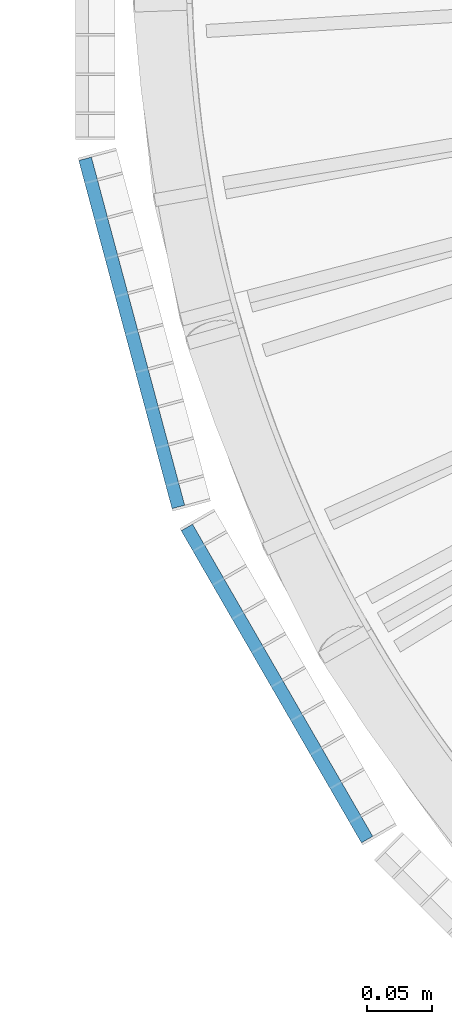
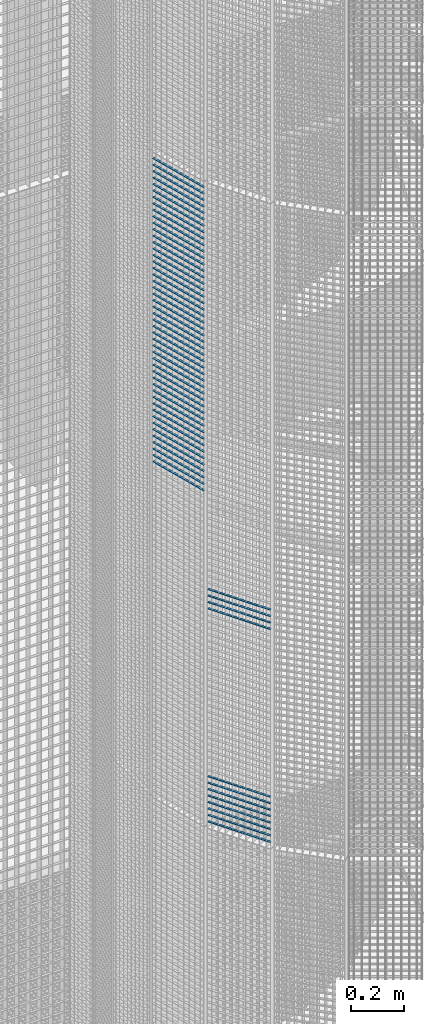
# One storey, part 116 of 1148: 60 beams, 2 elements without a shape of their own.
"""IFC2X3 building model written with IfcOpenShell, lengths in millimetres."""

from ifc_helpers import new_model, si_unit, frame, origin_with_axes, origin_2d_with_axis, place, context, subcontext, project, spatial, rectangle, extrude, material, type_object, element, aggregate, save


model = new_model("IFC2X3")

# Units and contexts
model_context = context("Model", 3, precision=1e-05, world=origin_with_axes())
body_context = subcontext(model_context, "Body", "Model", "MODEL_VIEW")
ifc_project = project(units=[si_unit("LENGTHUNIT", "METRE", prefix="MILLI"), si_unit("AREAUNIT", "SQUARE_METRE"), si_unit("VOLUMEUNIT", "CUBIC_METRE"), si_unit("MASSUNIT", "GRAM", prefix="KILO"), si_unit("TIMEUNIT", "SECOND"), si_unit("PLANEANGLEUNIT", "RADIAN"), si_unit("SOLIDANGLEUNIT", "STERADIAN"), si_unit("THERMODYNAMICTEMPERATUREUNIT", "DEGREE_CELSIUS"), si_unit("LUMINOUSINTENSITYUNIT", "LUMEN")], contexts=[model_context])

# Site, building, storey
site_placement = place(None, origin_with_axes())
site = spatial("IfcSite", under=ifc_project, at=site_placement, Name="Undefined", CompositionType="ELEMENT")
building_placement = place(site_placement, origin_with_axes())
building = spatial("IfcBuilding", under=site, at=building_placement, Name="Undefined", CompositionType="ELEMENT")
storey_placement = place(building_placement, origin_with_axes())
storey = spatial("IfcBuildingStorey", under=building, at=storey_placement, Name="Undefined", CompositionType="ELEMENT", Elevation=0.0)

# Assembly, beams
assembly_1_placement = place(storey_placement, origin_with_axes())
assembly_1 = element("IfcElementAssembly", 1, at=assembly_1_placement, inside=storey, Name="BORDURE", AssemblyPlace="NOTDEFINED", PredefinedType="NOTDEFINED")
ifc_material = material(Name="STEEL/S235JR")
beam_type = type_object("IfcBeamType", Name="PL2*10", PredefinedType="NOTDEFINED")
beam_1_placement = place(assembly_1_placement, frame((-1033.29996828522, -437.231955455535, 9240.0), z_axis=(-0.866025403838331, -0.499999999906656, 0.0), x_axis=(0.499999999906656, -0.866025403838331, 0.0)))
beam_1 = element("IfcBeam", 2, at=beam_1_placement, type_object=beam_type, material=ifc_material, Name="ENTRETOISE", context=body_context, shape_type="SweptSolid", body=[
    extrude(rectangle(XDim=2.0, YDim=10.0, at=origin_2d_with_axis()), frame((275.999999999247, 9.09494701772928e-13, 1.53210777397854e-14), z_axis=(-1.0, 0.0, 0.0), x_axis=(0.0, -1.0, 0.0)), (0.0, 0.0, 1.0), 276.0),
])
beam_2_placement = place(assembly_1_placement, frame((-1033.29996828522, -437.231955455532, 10020.0), z_axis=(-0.866025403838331, -0.499999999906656, 0.0), x_axis=(0.499999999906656, -0.866025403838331, 0.0)))
beam_2 = element("IfcBeam", 3, at=beam_2_placement, type_object=beam_type, material=ifc_material, Name="ENTRETOISE", context=body_context, shape_type="SweptSolid", body=[
    extrude(rectangle(XDim=2.0, YDim=10.0, at=origin_2d_with_axis()), frame((275.999999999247, 9.09494701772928e-13, 1.53210777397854e-14), z_axis=(-1.0, 0.0, 0.0), x_axis=(0.0, -1.0, 0.0)), (0.0, 0.0, 1.0), 276.0),
])
beam_3_placement = place(assembly_1_placement, frame((-1033.29996828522, -437.231955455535, 9210.0), z_axis=(-0.866025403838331, -0.499999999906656, 0.0), x_axis=(0.499999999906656, -0.866025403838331, 0.0)))
beam_3 = element("IfcBeam", 4, at=beam_3_placement, type_object=beam_type, material=ifc_material, Name="ENTRETOISE", context=body_context, shape_type="SweptSolid", body=[
    extrude(rectangle(XDim=2.0, YDim=10.0, at=origin_2d_with_axis()), frame((275.999999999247, 9.09494701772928e-13, 1.53210777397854e-14), z_axis=(-1.0, 0.0, 0.0), x_axis=(0.0, -1.0, 0.0)), (0.0, 0.0, 1.0), 276.0),
])
beam_4_placement = place(assembly_1_placement, frame((-1033.29996828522, -437.231955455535, 9180.0), z_axis=(-0.866025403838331, -0.499999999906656, 0.0), x_axis=(0.499999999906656, -0.866025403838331, 0.0)))
beam_4 = element("IfcBeam", 5, at=beam_4_placement, type_object=beam_type, material=ifc_material, Name="ENTRETOISE", context=body_context, shape_type="SweptSolid", body=[
    extrude(rectangle(XDim=2.0, YDim=10.0, at=origin_2d_with_axis()), frame((275.999999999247, 9.09494701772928e-13, 1.53210777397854e-14), z_axis=(-1.0, 0.0, 0.0), x_axis=(0.0, -1.0, 0.0)), (0.0, 0.0, 1.0), 276.0),
])
beam_5_placement = place(assembly_1_placement, frame((-1033.29996828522, -437.231955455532, 10050.0), z_axis=(-0.866025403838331, -0.499999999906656, 0.0), x_axis=(0.499999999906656, -0.866025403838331, 0.0)))
beam_5 = element("IfcBeam", 6, at=beam_5_placement, type_object=beam_type, material=ifc_material, Name="ENTRETOISE", context=body_context, shape_type="SweptSolid", body=[
    extrude(rectangle(XDim=2.0, YDim=10.0, at=origin_2d_with_axis()), frame((275.999999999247, 9.09494701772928e-13, 1.53210777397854e-14), z_axis=(-1.0, 0.0, 0.0), x_axis=(0.0, -1.0, 0.0)), (0.0, 0.0, 1.0), 276.0),
])
beam_6_placement = place(assembly_1_placement, frame((-1033.29996828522, -437.231955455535, 9150.0), z_axis=(-0.866025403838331, -0.499999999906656, 0.0), x_axis=(0.499999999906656, -0.866025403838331, 0.0)))
beam_6 = element("IfcBeam", 7, at=beam_6_placement, type_object=beam_type, material=ifc_material, Name="ENTRETOISE", context=body_context, shape_type="SweptSolid", body=[
    extrude(rectangle(XDim=2.0, YDim=10.0, at=origin_2d_with_axis()), frame((275.999999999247, 9.09494701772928e-13, 1.53210777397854e-14), z_axis=(-1.0, 0.0, 0.0), x_axis=(0.0, -1.0, 0.0)), (0.0, 0.0, 1.0), 276.0),
])
beam_7_placement = place(assembly_1_placement, frame((-1033.29996828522, -437.231955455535, 9120.0), z_axis=(-0.866025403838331, -0.499999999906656, 0.0), x_axis=(0.499999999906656, -0.866025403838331, 0.0)))
beam_7 = element("IfcBeam", 8, at=beam_7_placement, type_object=beam_type, material=ifc_material, Name="ENTRETOISE", context=body_context, shape_type="SweptSolid", body=[
    extrude(rectangle(XDim=2.0, YDim=10.0, at=origin_2d_with_axis()), frame((275.999999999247, 9.09494701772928e-13, 1.53210777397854e-14), z_axis=(-1.0, 0.0, 0.0), x_axis=(0.0, -1.0, 0.0)), (0.0, 0.0, 1.0), 276.0),
])
beam_8_placement = place(assembly_1_placement, frame((-1033.29996828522, -437.231955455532, 10080.0), z_axis=(-0.866025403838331, -0.499999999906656, 0.0), x_axis=(0.499999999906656, -0.866025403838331, 0.0)))
beam_8 = element("IfcBeam", 9, at=beam_8_placement, type_object=beam_type, material=ifc_material, Name="ENTRETOISE", context=body_context, shape_type="SweptSolid", body=[
    extrude(rectangle(XDim=2.0, YDim=10.0, at=origin_2d_with_axis()), frame((275.999999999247, 9.09494701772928e-13, 1.53210777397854e-14), z_axis=(-1.0, 0.0, 0.0), x_axis=(0.0, -1.0, 0.0)), (0.0, 0.0, 1.0), 276.0),
])
beam_9_placement = place(assembly_1_placement, frame((-1033.29996828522, -437.231955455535, 9090.0), z_axis=(-0.866025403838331, -0.499999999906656, 0.0), x_axis=(0.499999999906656, -0.866025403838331, 0.0)))
beam_9 = element("IfcBeam", 10, at=beam_9_placement, type_object=beam_type, material=ifc_material, Name="ENTRETOISE", context=body_context, shape_type="SweptSolid", body=[
    extrude(rectangle(XDim=2.0, YDim=10.0, at=origin_2d_with_axis()), frame((275.999999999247, 9.09494701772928e-13, 1.53210777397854e-14), z_axis=(-1.0, 0.0, 0.0), x_axis=(0.0, -1.0, 0.0)), (0.0, 0.0, 1.0), 276.0),
])
beam_10_placement = place(assembly_1_placement, frame((-1033.29996828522, -437.231955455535, 9060.0), z_axis=(-0.866025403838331, -0.499999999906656, 0.0), x_axis=(0.499999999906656, -0.866025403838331, 0.0)))
beam_10 = element("IfcBeam", 11, at=beam_10_placement, type_object=beam_type, material=ifc_material, Name="ENTRETOISE", context=body_context, shape_type="SweptSolid", body=[
    extrude(rectangle(XDim=2.0, YDim=10.0, at=origin_2d_with_axis()), frame((275.999999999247, 9.09494701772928e-13, 1.53210777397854e-14), z_axis=(-1.0, 0.0, 0.0), x_axis=(0.0, -1.0, 0.0)), (0.0, 0.0, 1.0), 276.0),
])
beam_11_placement = place(assembly_1_placement, frame((-1033.29996828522, -437.231955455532, 10110.0), z_axis=(-0.866025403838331, -0.499999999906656, 0.0), x_axis=(0.499999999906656, -0.866025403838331, 0.0)))
beam_11 = element("IfcBeam", 12, at=beam_11_placement, type_object=beam_type, material=ifc_material, Name="ENTRETOISE", context=body_context, shape_type="SweptSolid", body=[
    extrude(rectangle(XDim=2.0, YDim=10.0, at=origin_2d_with_axis()), frame((275.999999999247, 9.09494701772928e-13, 1.53210777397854e-14), z_axis=(-1.0, 0.0, 0.0), x_axis=(0.0, -1.0, 0.0)), (0.0, 0.0, 1.0), 276.0),
])
beam_12_placement = place(assembly_1_placement, frame((-1033.29996828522, -437.231955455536, 9030.0), z_axis=(-0.866025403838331, -0.499999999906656, 0.0), x_axis=(0.499999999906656, -0.866025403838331, 0.0)))
beam_12 = element("IfcBeam", 13, at=beam_12_placement, type_object=beam_type, material=ifc_material, Name="ENTRETOISE", context=body_context, shape_type="SweptSolid", body=[
    extrude(rectangle(XDim=2.0, YDim=10.0, at=origin_2d_with_axis()), frame((275.999999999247, 9.09494701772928e-13, 1.53210777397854e-14), z_axis=(-1.0, 0.0, 0.0), x_axis=(0.0, -1.0, 0.0)), (0.0, 0.0, 1.0), 276.0),
])
aggregate(assembly_1, [beam_1, beam_2, beam_3, beam_4, beam_5, beam_6, beam_7, beam_8, beam_9, beam_10, beam_11, beam_12])

assembly_2_placement = place(storey_placement, origin_with_axes())
assembly_2 = element("IfcElementAssembly", 14, at=assembly_2_placement, inside=storey, Name="BORDURE", AssemblyPlace="NOTDEFINED", PredefinedType="NOTDEFINED")
beam_13_placement = place(assembly_2_placement, frame((-1111.25508286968, -154.895926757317, 11970.0), z_axis=(-0.965925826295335, -0.258819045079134, 0.0), x_axis=(0.258819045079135, -0.965925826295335, 0.0)))
beam_13 = element("IfcBeam", 15, at=beam_13_placement, type_object=beam_type, material=ifc_material, Name="ENTRETOISE", context=body_context, shape_type="SweptSolid", body=[
    extrude(rectangle(XDim=2.0, YDim=10.0, at=origin_2d_with_axis()), frame((275.999999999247, 9.09494701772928e-13, 1.53210777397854e-14), z_axis=(-1.0, 0.0, 0.0), x_axis=(0.0, -1.0, 0.0)), (0.0, 0.0, 1.0), 276.0),
])
beam_14_placement = place(assembly_2_placement, frame((-1111.25508286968, -154.895926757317, 11940.0), z_axis=(-0.965925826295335, -0.258819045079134, 0.0), x_axis=(0.258819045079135, -0.965925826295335, 0.0)))
beam_14 = element("IfcBeam", 16, at=beam_14_placement, type_object=beam_type, material=ifc_material, Name="ENTRETOISE", context=body_context, shape_type="SweptSolid", body=[
    extrude(rectangle(XDim=2.0, YDim=10.0, at=origin_2d_with_axis()), frame((275.999999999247, 9.09494701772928e-13, 1.53210777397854e-14), z_axis=(-1.0, 0.0, 0.0), x_axis=(0.0, -1.0, 0.0)), (0.0, 0.0, 1.0), 276.0),
])
beam_15_placement = place(assembly_2_placement, frame((-1111.25508286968, -154.895926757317, 11910.0), z_axis=(-0.965925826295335, -0.258819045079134, 0.0), x_axis=(0.258819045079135, -0.965925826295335, 0.0)))
beam_15 = element("IfcBeam", 17, at=beam_15_placement, type_object=beam_type, material=ifc_material, Name="ENTRETOISE", context=body_context, shape_type="SweptSolid", body=[
    extrude(rectangle(XDim=2.0, YDim=10.0, at=origin_2d_with_axis()), frame((275.999999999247, 9.09494701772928e-13, 1.53210777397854e-14), z_axis=(-1.0, 0.0, 0.0), x_axis=(0.0, -1.0, 0.0)), (0.0, 0.0, 1.0), 276.0),
])
beam_16_placement = place(assembly_2_placement, frame((-1111.25508286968, -154.895926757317, 11880.0), z_axis=(-0.965925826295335, -0.258819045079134, 0.0), x_axis=(0.258819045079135, -0.965925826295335, 0.0)))
beam_16 = element("IfcBeam", 18, at=beam_16_placement, type_object=beam_type, material=ifc_material, Name="ENTRETOISE", context=body_context, shape_type="SweptSolid", body=[
    extrude(rectangle(XDim=2.0, YDim=10.0, at=origin_2d_with_axis()), frame((275.999999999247, 9.09494701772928e-13, 1.53210777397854e-14), z_axis=(-1.0, 0.0, 0.0), x_axis=(0.0, -1.0, 0.0)), (0.0, 0.0, 1.0), 276.0),
])
beam_17_placement = place(assembly_2_placement, frame((-1111.25508286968, -154.895926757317, 11850.0), z_axis=(-0.965925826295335, -0.258819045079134, 0.0), x_axis=(0.258819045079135, -0.965925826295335, 0.0)))
beam_17 = element("IfcBeam", 19, at=beam_17_placement, type_object=beam_type, material=ifc_material, Name="ENTRETOISE", context=body_context, shape_type="SweptSolid", body=[
    extrude(rectangle(XDim=2.0, YDim=10.0, at=origin_2d_with_axis()), frame((275.999999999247, 9.09494701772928e-13, 1.53210777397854e-14), z_axis=(-1.0, 0.0, 0.0), x_axis=(0.0, -1.0, 0.0)), (0.0, 0.0, 1.0), 276.0),
])
beam_18_placement = place(assembly_2_placement, frame((-1111.25508286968, -154.895926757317, 11820.0), z_axis=(-0.965925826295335, -0.258819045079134, 0.0), x_axis=(0.258819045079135, -0.965925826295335, 0.0)))
beam_18 = element("IfcBeam", 20, at=beam_18_placement, type_object=beam_type, material=ifc_material, Name="ENTRETOISE", context=body_context, shape_type="SweptSolid", body=[
    extrude(rectangle(XDim=2.0, YDim=10.0, at=origin_2d_with_axis()), frame((275.999999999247, 9.09494701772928e-13, 1.53210777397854e-14), z_axis=(-1.0, 0.0, 0.0), x_axis=(0.0, -1.0, 0.0)), (0.0, 0.0, 1.0), 276.0),
])
beam_19_placement = place(assembly_2_placement, frame((-1111.25508286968, -154.895926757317, 11790.0), z_axis=(-0.965925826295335, -0.258819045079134, 0.0), x_axis=(0.258819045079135, -0.965925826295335, 0.0)))
beam_19 = element("IfcBeam", 21, at=beam_19_placement, type_object=beam_type, material=ifc_material, Name="ENTRETOISE", context=body_context, shape_type="SweptSolid", body=[
    extrude(rectangle(XDim=2.0, YDim=10.0, at=origin_2d_with_axis()), frame((275.999999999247, 9.09494701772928e-13, 1.53210777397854e-14), z_axis=(-1.0, 0.0, 0.0), x_axis=(0.0, -1.0, 0.0)), (0.0, 0.0, 1.0), 276.0),
])
beam_20_placement = place(assembly_2_placement, frame((-1111.25508286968, -154.895926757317, 11760.0), z_axis=(-0.965925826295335, -0.258819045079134, 0.0), x_axis=(0.258819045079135, -0.965925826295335, 0.0)))
beam_20 = element("IfcBeam", 22, at=beam_20_placement, type_object=beam_type, material=ifc_material, Name="ENTRETOISE", context=body_context, shape_type="SweptSolid", body=[
    extrude(rectangle(XDim=2.0, YDim=10.0, at=origin_2d_with_axis()), frame((275.999999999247, 9.09494701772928e-13, 1.53210777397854e-14), z_axis=(-1.0, 0.0, 0.0), x_axis=(0.0, -1.0, 0.0)), (0.0, 0.0, 1.0), 276.0),
])
beam_21_placement = place(assembly_2_placement, frame((-1111.25508286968, -154.895926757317, 11730.0), z_axis=(-0.965925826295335, -0.258819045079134, 0.0), x_axis=(0.258819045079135, -0.965925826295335, 0.0)))
beam_21 = element("IfcBeam", 23, at=beam_21_placement, type_object=beam_type, material=ifc_material, Name="ENTRETOISE", context=body_context, shape_type="SweptSolid", body=[
    extrude(rectangle(XDim=2.0, YDim=10.0, at=origin_2d_with_axis()), frame((275.999999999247, 9.09494701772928e-13, 1.53210777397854e-14), z_axis=(-1.0, 0.0, 0.0), x_axis=(0.0, -1.0, 0.0)), (0.0, 0.0, 1.0), 276.0),
])
beam_22_placement = place(assembly_2_placement, frame((-1111.25508286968, -154.895926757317, 11700.0), z_axis=(-0.965925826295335, -0.258819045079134, 0.0), x_axis=(0.258819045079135, -0.965925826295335, 0.0)))
beam_22 = element("IfcBeam", 24, at=beam_22_placement, type_object=beam_type, material=ifc_material, Name="ENTRETOISE", context=body_context, shape_type="SweptSolid", body=[
    extrude(rectangle(XDim=2.0, YDim=10.0, at=origin_2d_with_axis()), frame((275.999999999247, 9.09494701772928e-13, 1.53210777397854e-14), z_axis=(-1.0, 0.0, 0.0), x_axis=(0.0, -1.0, 0.0)), (0.0, 0.0, 1.0), 276.0),
])
beam_23_placement = place(assembly_2_placement, frame((-1111.25508286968, -154.895926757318, 11670.0), z_axis=(-0.965925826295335, -0.258819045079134, 0.0), x_axis=(0.258819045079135, -0.965925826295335, 0.0)))
beam_23 = element("IfcBeam", 25, at=beam_23_placement, type_object=beam_type, material=ifc_material, Name="ENTRETOISE", context=body_context, shape_type="SweptSolid", body=[
    extrude(rectangle(XDim=2.0, YDim=10.0, at=origin_2d_with_axis()), frame((275.999999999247, 9.09494701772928e-13, 1.53210777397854e-14), z_axis=(-1.0, 0.0, 0.0), x_axis=(0.0, -1.0, 0.0)), (0.0, 0.0, 1.0), 276.0),
])
beam_24_placement = place(assembly_2_placement, frame((-1111.25508286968, -154.895926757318, 11640.0), z_axis=(-0.965925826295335, -0.258819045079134, 0.0), x_axis=(0.258819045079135, -0.965925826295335, 0.0)))
beam_24 = element("IfcBeam", 26, at=beam_24_placement, type_object=beam_type, material=ifc_material, Name="ENTRETOISE", context=body_context, shape_type="SweptSolid", body=[
    extrude(rectangle(XDim=2.0, YDim=10.0, at=origin_2d_with_axis()), frame((275.999999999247, 9.09494701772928e-13, 1.53210777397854e-14), z_axis=(-1.0, 0.0, 0.0), x_axis=(0.0, -1.0, 0.0)), (0.0, 0.0, 1.0), 276.0),
])
beam_25_placement = place(assembly_2_placement, frame((-1111.25508286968, -154.895926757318, 11610.0), z_axis=(-0.965925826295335, -0.258819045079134, 0.0), x_axis=(0.258819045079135, -0.965925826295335, 0.0)))
beam_25 = element("IfcBeam", 27, at=beam_25_placement, type_object=beam_type, material=ifc_material, Name="ENTRETOISE", context=body_context, shape_type="SweptSolid", body=[
    extrude(rectangle(XDim=2.0, YDim=10.0, at=origin_2d_with_axis()), frame((275.999999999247, 9.09494701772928e-13, 1.53210777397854e-14), z_axis=(-1.0, 0.0, 0.0), x_axis=(0.0, -1.0, 0.0)), (0.0, 0.0, 1.0), 276.0),
])
beam_26_placement = place(assembly_2_placement, frame((-1111.25508286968, -154.895926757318, 11580.0), z_axis=(-0.965925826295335, -0.258819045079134, 0.0), x_axis=(0.258819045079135, -0.965925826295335, 0.0)))
beam_26 = element("IfcBeam", 28, at=beam_26_placement, type_object=beam_type, material=ifc_material, Name="ENTRETOISE", context=body_context, shape_type="SweptSolid", body=[
    extrude(rectangle(XDim=2.0, YDim=10.0, at=origin_2d_with_axis()), frame((275.999999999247, 9.09494701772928e-13, 1.53210777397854e-14), z_axis=(-1.0, 0.0, 0.0), x_axis=(0.0, -1.0, 0.0)), (0.0, 0.0, 1.0), 276.0),
])
beam_27_placement = place(assembly_2_placement, frame((-1111.25508286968, -154.895926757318, 11550.0), z_axis=(-0.965925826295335, -0.258819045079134, 0.0), x_axis=(0.258819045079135, -0.965925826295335, 0.0)))
beam_27 = element("IfcBeam", 29, at=beam_27_placement, type_object=beam_type, material=ifc_material, Name="ENTRETOISE", context=body_context, shape_type="SweptSolid", body=[
    extrude(rectangle(XDim=2.0, YDim=10.0, at=origin_2d_with_axis()), frame((275.999999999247, 9.09494701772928e-13, 1.53210777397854e-14), z_axis=(-1.0, 0.0, 0.0), x_axis=(0.0, -1.0, 0.0)), (0.0, 0.0, 1.0), 276.0),
])
beam_28_placement = place(assembly_2_placement, frame((-1111.25508286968, -154.895926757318, 11520.0), z_axis=(-0.965925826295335, -0.258819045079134, 0.0), x_axis=(0.258819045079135, -0.965925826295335, 0.0)))
beam_28 = element("IfcBeam", 30, at=beam_28_placement, type_object=beam_type, material=ifc_material, Name="ENTRETOISE", context=body_context, shape_type="SweptSolid", body=[
    extrude(rectangle(XDim=2.0, YDim=10.0, at=origin_2d_with_axis()), frame((275.999999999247, 9.09494701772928e-13, 1.53210777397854e-14), z_axis=(-1.0, 0.0, 0.0), x_axis=(0.0, -1.0, 0.0)), (0.0, 0.0, 1.0), 276.0),
])
beam_29_placement = place(assembly_2_placement, frame((-1111.25508286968, -154.895926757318, 11490.0), z_axis=(-0.965925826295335, -0.258819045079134, 0.0), x_axis=(0.258819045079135, -0.965925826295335, 0.0)))
beam_29 = element("IfcBeam", 31, at=beam_29_placement, type_object=beam_type, material=ifc_material, Name="ENTRETOISE", context=body_context, shape_type="SweptSolid", body=[
    extrude(rectangle(XDim=2.0, YDim=10.0, at=origin_2d_with_axis()), frame((275.999999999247, 9.09494701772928e-13, 1.53210777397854e-14), z_axis=(-1.0, 0.0, 0.0), x_axis=(0.0, -1.0, 0.0)), (0.0, 0.0, 1.0), 276.0),
])
beam_30_placement = place(assembly_2_placement, frame((-1111.25508286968, -154.895926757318, 11460.0), z_axis=(-0.965925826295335, -0.258819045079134, 0.0), x_axis=(0.258819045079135, -0.965925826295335, 0.0)))
beam_30 = element("IfcBeam", 32, at=beam_30_placement, type_object=beam_type, material=ifc_material, Name="ENTRETOISE", context=body_context, shape_type="SweptSolid", body=[
    extrude(rectangle(XDim=2.0, YDim=10.0, at=origin_2d_with_axis()), frame((275.999999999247, 9.09494701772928e-13, 1.53210777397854e-14), z_axis=(-1.0, 0.0, 0.0), x_axis=(0.0, -1.0, 0.0)), (0.0, 0.0, 1.0), 276.0),
])
beam_31_placement = place(assembly_2_placement, frame((-1111.25508286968, -154.895926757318, 11430.0), z_axis=(-0.965925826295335, -0.258819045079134, 0.0), x_axis=(0.258819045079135, -0.965925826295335, 0.0)))
beam_31 = element("IfcBeam", 33, at=beam_31_placement, type_object=beam_type, material=ifc_material, Name="ENTRETOISE", context=body_context, shape_type="SweptSolid", body=[
    extrude(rectangle(XDim=2.0, YDim=10.0, at=origin_2d_with_axis()), frame((275.999999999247, 9.09494701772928e-13, 1.53210777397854e-14), z_axis=(-1.0, 0.0, 0.0), x_axis=(0.0, -1.0, 0.0)), (0.0, 0.0, 1.0), 276.0),
])
beam_32_placement = place(assembly_2_placement, frame((-1111.25508286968, -154.895926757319, 11400.0), z_axis=(-0.965925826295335, -0.258819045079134, 0.0), x_axis=(0.258819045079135, -0.965925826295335, 0.0)))
beam_32 = element("IfcBeam", 34, at=beam_32_placement, type_object=beam_type, material=ifc_material, Name="ENTRETOISE", context=body_context, shape_type="SweptSolid", body=[
    extrude(rectangle(XDim=2.0, YDim=10.0, at=origin_2d_with_axis()), frame((275.999999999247, 9.09494701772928e-13, 1.53210777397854e-14), z_axis=(-1.0, 0.0, 0.0), x_axis=(0.0, -1.0, 0.0)), (0.0, 0.0, 1.0), 276.0),
])
beam_33_placement = place(assembly_2_placement, frame((-1111.25508286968, -154.895926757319, 11370.0), z_axis=(-0.965925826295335, -0.258819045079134, 0.0), x_axis=(0.258819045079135, -0.965925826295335, 0.0)))
beam_33 = element("IfcBeam", 35, at=beam_33_placement, type_object=beam_type, material=ifc_material, Name="ENTRETOISE", context=body_context, shape_type="SweptSolid", body=[
    extrude(rectangle(XDim=2.0, YDim=10.0, at=origin_2d_with_axis()), frame((275.999999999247, 9.09494701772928e-13, 1.53210777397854e-14), z_axis=(-1.0, 0.0, 0.0), x_axis=(0.0, -1.0, 0.0)), (0.0, 0.0, 1.0), 276.0),
])
beam_34_placement = place(assembly_2_placement, frame((-1111.25508286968, -154.895926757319, 11340.0), z_axis=(-0.965925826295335, -0.258819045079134, 0.0), x_axis=(0.258819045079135, -0.965925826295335, 0.0)))
beam_34 = element("IfcBeam", 36, at=beam_34_placement, type_object=beam_type, material=ifc_material, Name="ENTRETOISE", context=body_context, shape_type="SweptSolid", body=[
    extrude(rectangle(XDim=2.0, YDim=10.0, at=origin_2d_with_axis()), frame((275.999999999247, 9.09494701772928e-13, 1.53210777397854e-14), z_axis=(-1.0, 0.0, 0.0), x_axis=(0.0, -1.0, 0.0)), (0.0, 0.0, 1.0), 276.0),
])
beam_35_placement = place(assembly_2_placement, frame((-1111.25508286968, -154.895926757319, 11310.0), z_axis=(-0.965925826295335, -0.258819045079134, 0.0), x_axis=(0.258819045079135, -0.965925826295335, 0.0)))
beam_35 = element("IfcBeam", 37, at=beam_35_placement, type_object=beam_type, material=ifc_material, Name="ENTRETOISE", context=body_context, shape_type="SweptSolid", body=[
    extrude(rectangle(XDim=2.0, YDim=10.0, at=origin_2d_with_axis()), frame((275.999999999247, 9.09494701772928e-13, 1.53210777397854e-14), z_axis=(-1.0, 0.0, 0.0), x_axis=(0.0, -1.0, 0.0)), (0.0, 0.0, 1.0), 276.0),
])
beam_36_placement = place(assembly_2_placement, frame((-1111.25508286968, -154.895926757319, 11280.0), z_axis=(-0.965925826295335, -0.258819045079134, 0.0), x_axis=(0.258819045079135, -0.965925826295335, 0.0)))
beam_36 = element("IfcBeam", 38, at=beam_36_placement, type_object=beam_type, material=ifc_material, Name="ENTRETOISE", context=body_context, shape_type="SweptSolid", body=[
    extrude(rectangle(XDim=2.0, YDim=10.0, at=origin_2d_with_axis()), frame((275.999999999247, 9.09494701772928e-13, 1.53210777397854e-14), z_axis=(-1.0, 0.0, 0.0), x_axis=(0.0, -1.0, 0.0)), (0.0, 0.0, 1.0), 276.0),
])
beam_37_placement = place(assembly_2_placement, frame((-1111.25508286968, -154.895926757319, 11250.0), z_axis=(-0.965925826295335, -0.258819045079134, 0.0), x_axis=(0.258819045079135, -0.965925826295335, 0.0)))
beam_37 = element("IfcBeam", 39, at=beam_37_placement, type_object=beam_type, material=ifc_material, Name="ENTRETOISE", context=body_context, shape_type="SweptSolid", body=[
    extrude(rectangle(XDim=2.0, YDim=10.0, at=origin_2d_with_axis()), frame((275.999999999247, 9.09494701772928e-13, 1.53210777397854e-14), z_axis=(-1.0, 0.0, 0.0), x_axis=(0.0, -1.0, 0.0)), (0.0, 0.0, 1.0), 276.0),
])
beam_38_placement = place(assembly_2_placement, frame((-1111.25508286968, -154.895926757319, 11220.0), z_axis=(-0.965925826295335, -0.258819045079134, 0.0), x_axis=(0.258819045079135, -0.965925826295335, 0.0)))
beam_38 = element("IfcBeam", 40, at=beam_38_placement, type_object=beam_type, material=ifc_material, Name="ENTRETOISE", context=body_context, shape_type="SweptSolid", body=[
    extrude(rectangle(XDim=2.0, YDim=10.0, at=origin_2d_with_axis()), frame((275.999999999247, 9.09494701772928e-13, 1.53210777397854e-14), z_axis=(-1.0, 0.0, 0.0), x_axis=(0.0, -1.0, 0.0)), (0.0, 0.0, 1.0), 276.0),
])
beam_39_placement = place(assembly_2_placement, frame((-1111.25508286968, -154.895926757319, 11190.0), z_axis=(-0.965925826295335, -0.258819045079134, 0.0), x_axis=(0.258819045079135, -0.965925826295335, 0.0)))
beam_39 = element("IfcBeam", 41, at=beam_39_placement, type_object=beam_type, material=ifc_material, Name="ENTRETOISE", context=body_context, shape_type="SweptSolid", body=[
    extrude(rectangle(XDim=2.0, YDim=10.0, at=origin_2d_with_axis()), frame((275.999999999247, 9.09494701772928e-13, 1.53210777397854e-14), z_axis=(-1.0, 0.0, 0.0), x_axis=(0.0, -1.0, 0.0)), (0.0, 0.0, 1.0), 276.0),
])
beam_40_placement = place(assembly_2_placement, frame((-1111.25508286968, -154.895926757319, 11160.0), z_axis=(-0.965925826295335, -0.258819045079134, 0.0), x_axis=(0.258819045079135, -0.965925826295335, 0.0)))
beam_40 = element("IfcBeam", 42, at=beam_40_placement, type_object=beam_type, material=ifc_material, Name="ENTRETOISE", context=body_context, shape_type="SweptSolid", body=[
    extrude(rectangle(XDim=2.0, YDim=10.0, at=origin_2d_with_axis()), frame((275.999999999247, 9.09494701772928e-13, 1.53210777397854e-14), z_axis=(-1.0, 0.0, 0.0), x_axis=(0.0, -1.0, 0.0)), (0.0, 0.0, 1.0), 276.0),
])
beam_41_placement = place(assembly_2_placement, frame((-1111.25508286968, -154.89592675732, 11130.0), z_axis=(-0.965925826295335, -0.258819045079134, 0.0), x_axis=(0.258819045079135, -0.965925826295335, 0.0)))
beam_41 = element("IfcBeam", 43, at=beam_41_placement, type_object=beam_type, material=ifc_material, Name="ENTRETOISE", context=body_context, shape_type="SweptSolid", body=[
    extrude(rectangle(XDim=2.0, YDim=10.0, at=origin_2d_with_axis()), frame((275.999999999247, 9.09494701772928e-13, 1.53210777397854e-14), z_axis=(-1.0, 0.0, 0.0), x_axis=(0.0, -1.0, 0.0)), (0.0, 0.0, 1.0), 276.0),
])
beam_42_placement = place(assembly_2_placement, frame((-1111.25508286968, -154.89592675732, 11100.0), z_axis=(-0.965925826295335, -0.258819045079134, 0.0), x_axis=(0.258819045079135, -0.965925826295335, 0.0)))
beam_42 = element("IfcBeam", 44, at=beam_42_placement, type_object=beam_type, material=ifc_material, Name="ENTRETOISE", context=body_context, shape_type="SweptSolid", body=[
    extrude(rectangle(XDim=2.0, YDim=10.0, at=origin_2d_with_axis()), frame((275.999999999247, 9.09494701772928e-13, 1.53210777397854e-14), z_axis=(-1.0, 0.0, 0.0), x_axis=(0.0, -1.0, 0.0)), (0.0, 0.0, 1.0), 276.0),
])
beam_43_placement = place(assembly_2_placement, frame((-1111.25508286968, -154.89592675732, 11070.0), z_axis=(-0.965925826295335, -0.258819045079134, 0.0), x_axis=(0.258819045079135, -0.965925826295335, 0.0)))
beam_43 = element("IfcBeam", 45, at=beam_43_placement, type_object=beam_type, material=ifc_material, Name="ENTRETOISE", context=body_context, shape_type="SweptSolid", body=[
    extrude(rectangle(XDim=2.0, YDim=10.0, at=origin_2d_with_axis()), frame((275.999999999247, 9.09494701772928e-13, 1.53210777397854e-14), z_axis=(-1.0, 0.0, 0.0), x_axis=(0.0, -1.0, 0.0)), (0.0, 0.0, 1.0), 276.0),
])
beam_44_placement = place(assembly_2_placement, frame((-1111.25508286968, -154.89592675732, 11040.0), z_axis=(-0.965925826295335, -0.258819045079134, 0.0), x_axis=(0.258819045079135, -0.965925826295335, 0.0)))
beam_44 = element("IfcBeam", 46, at=beam_44_placement, type_object=beam_type, material=ifc_material, Name="ENTRETOISE", context=body_context, shape_type="SweptSolid", body=[
    extrude(rectangle(XDim=2.0, YDim=10.0, at=origin_2d_with_axis()), frame((275.999999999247, 9.09494701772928e-13, 1.53210777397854e-14), z_axis=(-1.0, 0.0, 0.0), x_axis=(0.0, -1.0, 0.0)), (0.0, 0.0, 1.0), 276.0),
])
beam_45_placement = place(assembly_2_placement, frame((-1111.25508286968, -154.89592675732, 11010.0), z_axis=(-0.965925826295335, -0.258819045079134, 0.0), x_axis=(0.258819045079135, -0.965925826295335, 0.0)))
beam_45 = element("IfcBeam", 47, at=beam_45_placement, type_object=beam_type, material=ifc_material, Name="ENTRETOISE", context=body_context, shape_type="SweptSolid", body=[
    extrude(rectangle(XDim=2.0, YDim=10.0, at=origin_2d_with_axis()), frame((275.999999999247, 9.09494701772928e-13, 1.53210777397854e-14), z_axis=(-1.0, 0.0, 0.0), x_axis=(0.0, -1.0, 0.0)), (0.0, 0.0, 1.0), 276.0),
])
beam_46_placement = place(assembly_2_placement, frame((-1111.25508286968, -154.89592675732, 10980.0), z_axis=(-0.965925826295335, -0.258819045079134, 0.0), x_axis=(0.258819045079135, -0.965925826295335, 0.0)))
beam_46 = element("IfcBeam", 48, at=beam_46_placement, type_object=beam_type, material=ifc_material, Name="ENTRETOISE", context=body_context, shape_type="SweptSolid", body=[
    extrude(rectangle(XDim=2.0, YDim=10.0, at=origin_2d_with_axis()), frame((275.999999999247, 9.09494701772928e-13, 1.53210777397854e-14), z_axis=(-1.0, 0.0, 0.0), x_axis=(0.0, -1.0, 0.0)), (0.0, 0.0, 1.0), 276.0),
])
beam_47_placement = place(assembly_2_placement, frame((-1111.25508286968, -154.89592675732, 10950.0), z_axis=(-0.965925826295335, -0.258819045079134, 0.0), x_axis=(0.258819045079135, -0.965925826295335, 0.0)))
beam_47 = element("IfcBeam", 49, at=beam_47_placement, type_object=beam_type, material=ifc_material, Name="ENTRETOISE", context=body_context, shape_type="SweptSolid", body=[
    extrude(rectangle(XDim=2.0, YDim=10.0, at=origin_2d_with_axis()), frame((275.999999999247, 9.09494701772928e-13, 1.53210777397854e-14), z_axis=(-1.0, 0.0, 0.0), x_axis=(0.0, -1.0, 0.0)), (0.0, 0.0, 1.0), 276.0),
])
beam_48_placement = place(assembly_2_placement, frame((-1111.25508286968, -154.89592675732, 10920.0), z_axis=(-0.965925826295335, -0.258819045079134, 0.0), x_axis=(0.258819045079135, -0.965925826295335, 0.0)))
beam_48 = element("IfcBeam", 50, at=beam_48_placement, type_object=beam_type, material=ifc_material, Name="ENTRETOISE", context=body_context, shape_type="SweptSolid", body=[
    extrude(rectangle(XDim=2.0, YDim=10.0, at=origin_2d_with_axis()), frame((275.999999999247, 9.09494701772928e-13, 1.53210777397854e-14), z_axis=(-1.0, 0.0, 0.0), x_axis=(0.0, -1.0, 0.0)), (0.0, 0.0, 1.0), 276.0),
])
beam_49_placement = place(assembly_2_placement, frame((-1111.25508286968, -154.89592675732, 10890.0), z_axis=(-0.965925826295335, -0.258819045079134, 0.0), x_axis=(0.258819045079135, -0.965925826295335, 0.0)))
beam_49 = element("IfcBeam", 51, at=beam_49_placement, type_object=beam_type, material=ifc_material, Name="ENTRETOISE", context=body_context, shape_type="SweptSolid", body=[
    extrude(rectangle(XDim=2.0, YDim=10.0, at=origin_2d_with_axis()), frame((275.999999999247, 9.09494701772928e-13, 1.53210777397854e-14), z_axis=(-1.0, 0.0, 0.0), x_axis=(0.0, -1.0, 0.0)), (0.0, 0.0, 1.0), 276.0),
])
beam_50_placement = place(assembly_2_placement, frame((-1111.25508286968, -154.895926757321, 10860.0), z_axis=(-0.965925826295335, -0.258819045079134, 0.0), x_axis=(0.258819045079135, -0.965925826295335, 0.0)))
beam_50 = element("IfcBeam", 52, at=beam_50_placement, type_object=beam_type, material=ifc_material, Name="ENTRETOISE", context=body_context, shape_type="SweptSolid", body=[
    extrude(rectangle(XDim=2.0, YDim=10.0, at=origin_2d_with_axis()), frame((275.999999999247, 9.09494701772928e-13, 1.53210777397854e-14), z_axis=(-1.0, 0.0, 0.0), x_axis=(0.0, -1.0, 0.0)), (0.0, 0.0, 1.0), 276.0),
])
beam_51_placement = place(assembly_2_placement, frame((-1111.25508286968, -154.895926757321, 10830.0), z_axis=(-0.965925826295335, -0.258819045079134, 0.0), x_axis=(0.258819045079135, -0.965925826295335, 0.0)))
beam_51 = element("IfcBeam", 53, at=beam_51_placement, type_object=beam_type, material=ifc_material, Name="ENTRETOISE", context=body_context, shape_type="SweptSolid", body=[
    extrude(rectangle(XDim=2.0, YDim=10.0, at=origin_2d_with_axis()), frame((275.999999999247, 9.09494701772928e-13, 1.53210777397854e-14), z_axis=(-1.0, 0.0, 0.0), x_axis=(0.0, -1.0, 0.0)), (0.0, 0.0, 1.0), 276.0),
])
beam_52_placement = place(assembly_2_placement, frame((-1111.25508286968, -154.895926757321, 10800.0), z_axis=(-0.965925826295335, -0.258819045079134, 0.0), x_axis=(0.258819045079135, -0.965925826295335, 0.0)))
beam_52 = element("IfcBeam", 54, at=beam_52_placement, type_object=beam_type, material=ifc_material, Name="ENTRETOISE", context=body_context, shape_type="SweptSolid", body=[
    extrude(rectangle(XDim=2.0, YDim=10.0, at=origin_2d_with_axis()), frame((275.999999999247, 9.09494701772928e-13, 1.53210777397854e-14), z_axis=(-1.0, 0.0, 0.0), x_axis=(0.0, -1.0, 0.0)), (0.0, 0.0, 1.0), 276.0),
])
beam_53_placement = place(assembly_2_placement, frame((-1111.25508286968, -154.895926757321, 10770.0), z_axis=(-0.965925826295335, -0.258819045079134, 0.0), x_axis=(0.258819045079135, -0.965925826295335, 0.0)))
beam_53 = element("IfcBeam", 55, at=beam_53_placement, type_object=beam_type, material=ifc_material, Name="ENTRETOISE", context=body_context, shape_type="SweptSolid", body=[
    extrude(rectangle(XDim=2.0, YDim=10.0, at=origin_2d_with_axis()), frame((275.999999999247, 9.09494701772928e-13, 1.53210777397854e-14), z_axis=(-1.0, 0.0, 0.0), x_axis=(0.0, -1.0, 0.0)), (0.0, 0.0, 1.0), 276.0),
])
beam_54_placement = place(assembly_2_placement, frame((-1111.25508286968, -154.895926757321, 10740.0), z_axis=(-0.965925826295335, -0.258819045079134, 0.0), x_axis=(0.258819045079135, -0.965925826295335, 0.0)))
beam_54 = element("IfcBeam", 56, at=beam_54_placement, type_object=beam_type, material=ifc_material, Name="ENTRETOISE", context=body_context, shape_type="SweptSolid", body=[
    extrude(rectangle(XDim=2.0, YDim=10.0, at=origin_2d_with_axis()), frame((275.999999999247, 9.09494701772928e-13, 1.53210777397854e-14), z_axis=(-1.0, 0.0, 0.0), x_axis=(0.0, -1.0, 0.0)), (0.0, 0.0, 1.0), 276.0),
])
beam_55_placement = place(assembly_2_placement, frame((-1111.25508286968, -154.895926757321, 10710.0), z_axis=(-0.965925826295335, -0.258819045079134, 0.0), x_axis=(0.258819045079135, -0.965925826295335, 0.0)))
beam_55 = element("IfcBeam", 57, at=beam_55_placement, type_object=beam_type, material=ifc_material, Name="ENTRETOISE", context=body_context, shape_type="SweptSolid", body=[
    extrude(rectangle(XDim=2.0, YDim=10.0, at=origin_2d_with_axis()), frame((275.999999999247, 9.09494701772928e-13, 1.53210777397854e-14), z_axis=(-1.0, 0.0, 0.0), x_axis=(0.0, -1.0, 0.0)), (0.0, 0.0, 1.0), 276.0),
])
beam_56_placement = place(assembly_2_placement, frame((-1111.25508286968, -154.895926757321, 10680.0), z_axis=(-0.965925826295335, -0.258819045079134, 0.0), x_axis=(0.258819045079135, -0.965925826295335, 0.0)))
beam_56 = element("IfcBeam", 58, at=beam_56_placement, type_object=beam_type, material=ifc_material, Name="ENTRETOISE", context=body_context, shape_type="SweptSolid", body=[
    extrude(rectangle(XDim=2.0, YDim=10.0, at=origin_2d_with_axis()), frame((275.999999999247, 9.09494701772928e-13, 1.53210777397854e-14), z_axis=(-1.0, 0.0, 0.0), x_axis=(0.0, -1.0, 0.0)), (0.0, 0.0, 1.0), 276.0),
])
beam_57_placement = place(assembly_2_placement, frame((-1111.25508286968, -154.895926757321, 10650.0), z_axis=(-0.965925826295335, -0.258819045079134, 0.0), x_axis=(0.258819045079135, -0.965925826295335, 0.0)))
beam_57 = element("IfcBeam", 59, at=beam_57_placement, type_object=beam_type, material=ifc_material, Name="ENTRETOISE", context=body_context, shape_type="SweptSolid", body=[
    extrude(rectangle(XDim=2.0, YDim=10.0, at=origin_2d_with_axis()), frame((275.999999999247, 9.09494701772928e-13, 1.53210777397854e-14), z_axis=(-1.0, 0.0, 0.0), x_axis=(0.0, -1.0, 0.0)), (0.0, 0.0, 1.0), 276.0),
])
beam_58_placement = place(assembly_2_placement, frame((-1111.25508286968, -154.895926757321, 10620.0), z_axis=(-0.965925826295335, -0.258819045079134, 0.0), x_axis=(0.258819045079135, -0.965925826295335, 0.0)))
beam_58 = element("IfcBeam", 60, at=beam_58_placement, type_object=beam_type, material=ifc_material, Name="ENTRETOISE", context=body_context, shape_type="SweptSolid", body=[
    extrude(rectangle(XDim=2.0, YDim=10.0, at=origin_2d_with_axis()), frame((275.999999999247, 9.09494701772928e-13, 1.53210777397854e-14), z_axis=(-1.0, 0.0, 0.0), x_axis=(0.0, -1.0, 0.0)), (0.0, 0.0, 1.0), 276.0),
])
beam_59_placement = place(assembly_2_placement, frame((-1111.25508286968, -154.895926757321, 10590.0), z_axis=(-0.965925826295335, -0.258819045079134, 0.0), x_axis=(0.258819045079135, -0.965925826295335, 0.0)))
beam_59 = element("IfcBeam", 61, at=beam_59_placement, type_object=beam_type, material=ifc_material, Name="ENTRETOISE", context=body_context, shape_type="SweptSolid", body=[
    extrude(rectangle(XDim=2.0, YDim=10.0, at=origin_2d_with_axis()), frame((275.999999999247, 9.09494701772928e-13, 1.53210777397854e-14), z_axis=(-1.0, 0.0, 0.0), x_axis=(0.0, -1.0, 0.0)), (0.0, 0.0, 1.0), 276.0),
])
beam_60_placement = place(assembly_2_placement, frame((-1111.25508286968, -154.895926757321, 10560.0), z_axis=(-0.965925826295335, -0.258819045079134, 0.0), x_axis=(0.258819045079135, -0.965925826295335, 0.0)))
beam_60 = element("IfcBeam", 62, at=beam_60_placement, type_object=beam_type, material=ifc_material, Name="ENTRETOISE", context=body_context, shape_type="SweptSolid", body=[
    extrude(rectangle(XDim=2.0, YDim=10.0, at=origin_2d_with_axis()), frame((275.999999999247, 9.09494701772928e-13, 1.53210777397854e-14), z_axis=(-1.0, 0.0, 0.0), x_axis=(0.0, -1.0, 0.0)), (0.0, 0.0, 1.0), 276.0),
])
aggregate(assembly_2, [beam_13, beam_14, beam_15, beam_16, beam_17, beam_18, beam_19, beam_20, beam_21, beam_22, beam_23, beam_24, beam_25, beam_26, beam_27, beam_28, beam_29, beam_30, beam_31, beam_32, beam_33, beam_34, beam_35, beam_36, beam_37, beam_38, beam_39, beam_40, beam_41, beam_42, beam_43, beam_44, beam_45, beam_46, beam_47, beam_48, beam_49, beam_50, beam_51, beam_52, beam_53, beam_54, beam_55, beam_56, beam_57, beam_58, beam_59, beam_60])

save(model, "model.ifc")
